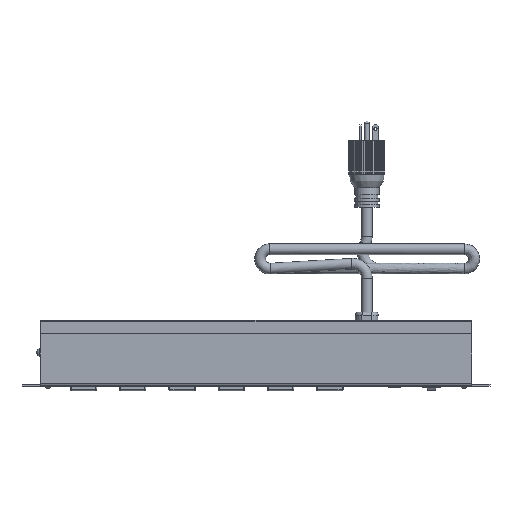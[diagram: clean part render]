
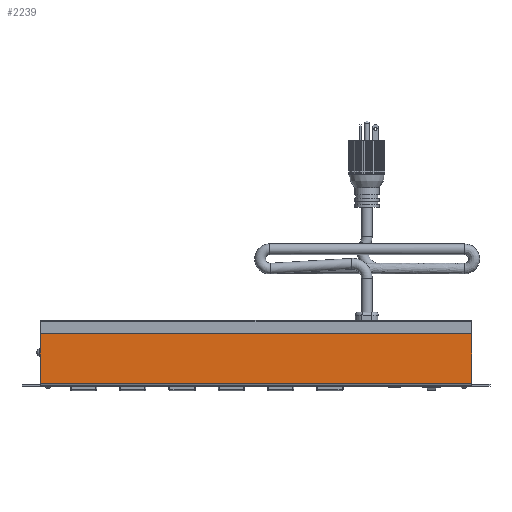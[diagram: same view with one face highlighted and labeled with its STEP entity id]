
A CAD part, front view. The second image highlights one B-rep face of the part: STEP entity #2239.
In plain terms, the highlighted planar face has unit normal (0, -1, 0).
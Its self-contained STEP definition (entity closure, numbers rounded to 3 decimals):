
#2030=CARTESIAN_POINT('',(-222.25,-21.819,2.588));
#2031=VERTEX_POINT('',#2030);
#2032=CARTESIAN_POINT('',(222.25,-21.819,2.588));
#2033=VERTEX_POINT('',#2032);
#2034=CARTESIAN_POINT('',(-222.25,-21.819,2.588));
#2035=DIRECTION('',(1.0,0.0,0.0));
#2036=VECTOR('',#2035,444.5);
#2037=LINE('',#2034,#2036);
#2038=EDGE_CURVE('',#2031,#2033,#2037,.T.);
#2088=CARTESIAN_POINT('',(222.25,-21.819,53.975));
#2089=VERTEX_POINT('',#2088);
#2096=CARTESIAN_POINT('',(222.25,-21.819,53.975));
#2097=DIRECTION('',(0.0,0.0,-1.0));
#2098=VECTOR('',#2097,51.387);
#2099=LINE('',#2096,#2098);
#2100=EDGE_CURVE('',#2089,#2033,#2099,.T.);
#2193=CARTESIAN_POINT('',(-222.25,-21.819,53.975));
#2194=VERTEX_POINT('',#2193);
#2195=CARTESIAN_POINT('',(-222.25,-21.819,2.588));
#2196=DIRECTION('',(0.0,0.0,1.0));
#2197=VECTOR('',#2196,51.388);
#2198=LINE('',#2195,#2197);
#2199=EDGE_CURVE('',#2031,#2194,#2198,.T.);
#2216=CARTESIAN_POINT('',(-222.25,-21.819,53.975));
#2217=DIRECTION('',(1.0,0.0,0.0));
#2218=VECTOR('',#2217,444.5);
#2219=LINE('',#2216,#2218);
#2220=EDGE_CURVE('',#2194,#2089,#2219,.T.);
#2228=CARTESIAN_POINT('',(0.,-21.819,26.947));
#2229=DIRECTION('',(0.0,1.0,0.0));
#2230=DIRECTION('',(1.0,0.0,0.0));
#2231=AXIS2_PLACEMENT_3D('',#2228,#2229,#2230);
#2232=PLANE('',#2231);
#2233=ORIENTED_EDGE('',*,*,#2038,.T.);
#2234=ORIENTED_EDGE('',*,*,#2100,.F.);
#2235=ORIENTED_EDGE('',*,*,#2220,.F.);
#2236=ORIENTED_EDGE('',*,*,#2199,.F.);
#2237=EDGE_LOOP('',(#2233,#2234,#2235,#2236));
#2238=FACE_OUTER_BOUND('',#2237,.T.);
#2239=ADVANCED_FACE('',(#2238),#2232,.F.);
